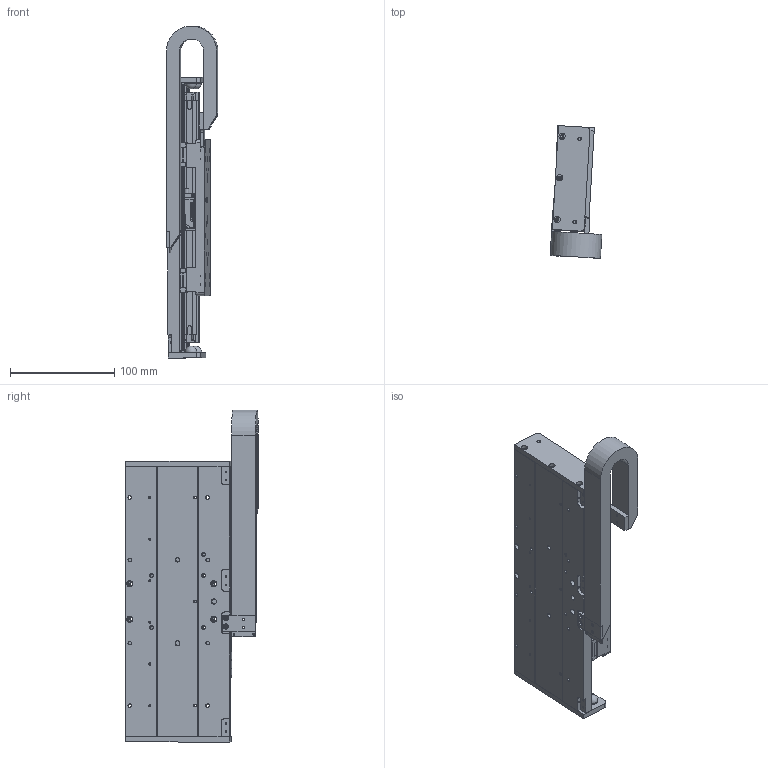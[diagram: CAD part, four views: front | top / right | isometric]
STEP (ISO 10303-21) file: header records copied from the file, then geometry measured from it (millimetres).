
FILE_DESCRIPTION(/* description */ (''),/* implementation_level */ '2;1');
FILE_NAME(/* name */ 'I:\FY15 Projects\MSR\MSR100\Web Step Models\mSR100L-100XLDXXXXXXCM13.stp',/* time_stamp */ '2015-02-18T13:24:05-05:00',/* author */ ('BF20108'),/* organization */ (''),/* preprocessor_version */ 'ST-DEVELOPER v15.2',/* originating_system */ 'Autodesk Inventor 2014',/* authorisation */ '');
FILE_SCHEMA (('AUTOMOTIVE_DESIGN { 1 0 10303 214 3 1 1 }'));
Products named in the file (17): 102-5710-04; 003-3562-36; 102-5702-03; ml18-120m-n; 102-5703-01; 102-5705-01; 002-3740-04; 003-3561; 003-5000; 102-5708; ML18-5E; 002-3740-long-carriage-assy; mx100-mcb; mx100-scb; e045-16-018-carrier-09; 002-3740-cbl-carr-lc-02; 002-3740
Bounding box: 49.76 x 127.64 x 319.13 mm (x, y, z)
Volume: 565182.3 mm3; surface area: 263772 mm2
Topology: 23 solids, 24 shells, 2167 faces, 5837 edges, 3782 vertices
Faces by surface type: plane 1176, cylinder 748, cone 135, torus 96, bspline 8, sphere 4
Full cylindrical faces by diameter (mm): 0.5 x8, 1 x4, 1.567 x63, 1.588 x2, 2.007 x18, 2.013 x10, 2.135 x4, 2.4 x34, 2.459 x21, 2.5 x20, 2.642 x4, 2.75 x1, 3 x22, 3.242 x10, 3.4 x21, 3.505 x4, 4 x4, 4.17 x2, 4.2 x35, 4.5 x18, 5 x9, 5.08 x2, 6 x25, 11.176 x4
Entity records: 47989 total; most frequent: CARTESIAN_POINT 8920, DIRECTION 8017, ORIENTED_EDGE 7526, EDGE_CURVE 3753, AXIS2_PLACEMENT_3D 2761, VERTEX_POINT 2636, LINE 2495, VECTOR 2495
